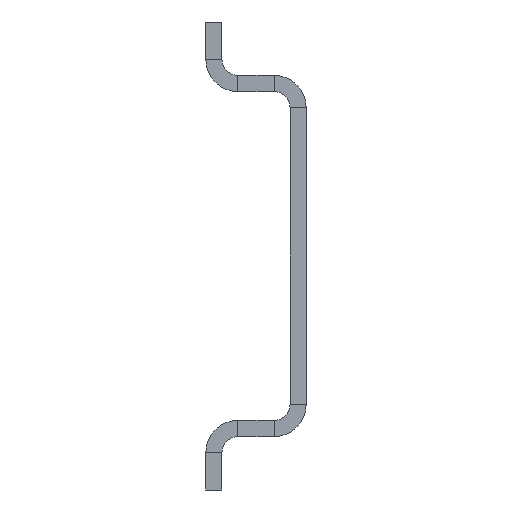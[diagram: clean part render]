
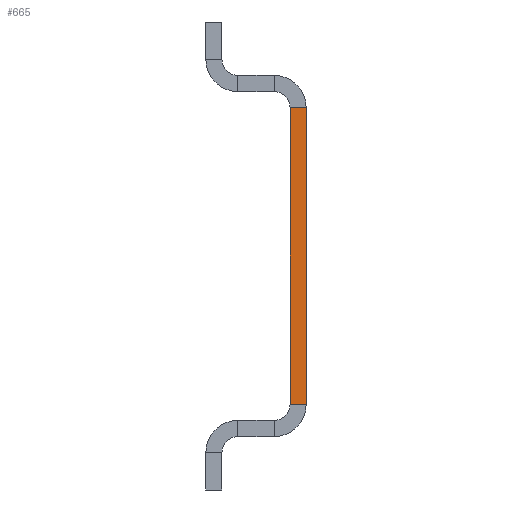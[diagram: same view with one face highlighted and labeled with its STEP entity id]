
A CAD part, left-side view. The second image highlights one B-rep face of the part: STEP entity #665.
In plain terms, the highlighted planar face has unit normal (-1, 0, 0).
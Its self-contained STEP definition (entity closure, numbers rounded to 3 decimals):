
#63 = CARTESIAN_POINT ( 'NONE',  ( -487.5, -1.2, 11.1 ) ) ;
#368 = EDGE_CURVE ( 'NONE', #5883, #3077, #1606, .T. ) ;
#621 = DIRECTION ( 'NONE',  ( 0., 1., 0. ) ) ;
#665 = ADVANCED_FACE ( 'NONE', ( #883 ), #4479, .T. ) ;
#883 = FACE_OUTER_BOUND ( 'NONE', #1220, .T. ) ;
#926 = CARTESIAN_POINT ( 'NONE',  ( -487.5, 0., 12.3 ) ) ;
#1071 = VERTEX_POINT ( 'NONE', #3780 ) ;
#1133 = AXIS2_PLACEMENT_3D ( 'NONE', #5871, #2942, #2460 ) ;
#1220 = EDGE_LOOP ( 'NONE', ( #1979, #4432, #6233, #4456 ) ) ;
#1606 = LINE ( 'NONE', #63, #6243 ) ;
#1954 = CARTESIAN_POINT ( 'NONE',  ( -487.5, -1.2, 11.1 ) ) ;
#1964 = DIRECTION ( 'NONE',  ( 0., -1., 0. ) ) ;
#1978 = EDGE_CURVE ( 'NONE', #3077, #3740, #5359, .T. ) ;
#1979 = ORIENTED_EDGE ( 'NONE', *, *, #1978, .T. ) ;
#2102 = EDGE_CURVE ( 'NONE', #5883, #1071, #5984, .T. ) ;
#2460 = DIRECTION ( 'NONE',  ( 0., 0., 1. ) ) ;
#2942 = DIRECTION ( 'NONE',  ( -1., 0., 0. ) ) ;
#2977 = LINE ( 'NONE', #5838, #6065 ) ;
#3046 = CARTESIAN_POINT ( 'NONE',  ( -487.5, -1.2, 12.3 ) ) ;
#3077 = VERTEX_POINT ( 'NONE', #4888 ) ;
#3444 = DIRECTION ( 'NONE',  ( 0., 0., -1. ) ) ;
#3740 = VERTEX_POINT ( 'NONE', #6237 ) ;
#3780 = CARTESIAN_POINT ( 'NONE',  ( -487.5, -1.2, -11.1 ) ) ;
#3929 = EDGE_CURVE ( 'NONE', #3740, #1071, #2977, .T. ) ;
#4225 = VECTOR ( 'NONE', #5041, 1000. ) ;
#4432 = ORIENTED_EDGE ( 'NONE', *, *, #3929, .T. ) ;
#4456 = ORIENTED_EDGE ( 'NONE', *, *, #368, .T. ) ;
#4479 = PLANE ( 'NONE',  #1133 ) ;
#4888 = CARTESIAN_POINT ( 'NONE',  ( -487.5, 0., 11.1 ) ) ;
#5041 = DIRECTION ( 'NONE',  ( 0., 0., -1. ) ) ;
#5359 = LINE ( 'NONE', #926, #6109 ) ;
#5838 = CARTESIAN_POINT ( 'NONE',  ( -487.5, 0., -11.1 ) ) ;
#5871 = CARTESIAN_POINT ( 'NONE',  ( -487.5, 1.2, -13.5 ) ) ;
#5883 = VERTEX_POINT ( 'NONE', #1954 ) ;
#5984 = LINE ( 'NONE', #3046, #4225 ) ;
#6065 = VECTOR ( 'NONE', #1964, 1000. ) ;
#6109 = VECTOR ( 'NONE', #3444, 1000. ) ;
#6233 = ORIENTED_EDGE ( 'NONE', *, *, #2102, .F. ) ;
#6237 = CARTESIAN_POINT ( 'NONE',  ( -487.5, 0., -11.1 ) ) ;
#6243 = VECTOR ( 'NONE', #621, 1000. ) ;
